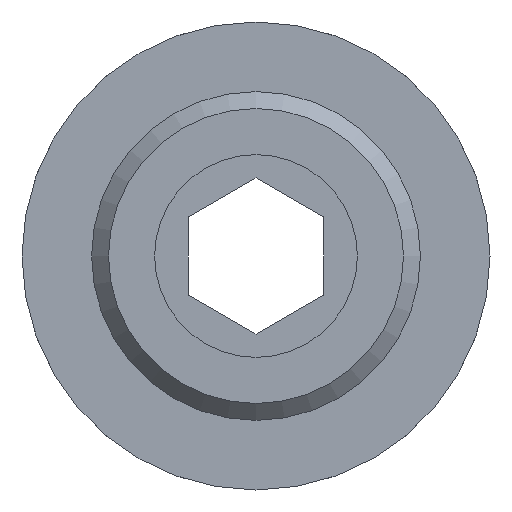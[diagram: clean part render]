
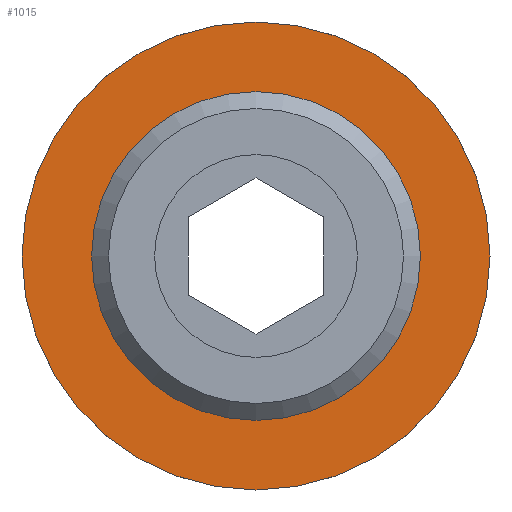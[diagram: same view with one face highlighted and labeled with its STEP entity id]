
A CAD part, front view. The second image highlights one B-rep face of the part: STEP entity #1015.
In plain terms, the highlighted planar face has unit normal (0, -1, 0).
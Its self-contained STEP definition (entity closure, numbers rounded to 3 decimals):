
#377=CARTESIAN_POINT('',(4.865,-16.2,0.0));
#378=VERTEX_POINT('',#377);
#379=CARTESIAN_POINT('',(0.0,-16.2,0.0));
#380=DIRECTION('',(0.0,-1.0,0.0));
#381=DIRECTION('',(1.0,0.0,0.0));
#382=AXIS2_PLACEMENT_3D('',#379,#380,#381);
#383=CIRCLE('',#382,4.865);
#384=EDGE_CURVE('',#378,#378,#383,.T.);
#877=CARTESIAN_POINT('',(6.925,-16.2,0.0));
#878=VERTEX_POINT('',#877);
#879=CARTESIAN_POINT('',(0.0,-16.2,0.0));
#880=DIRECTION('',(0.0,-1.0,0.0));
#881=DIRECTION('',(1.0,0.0,0.0));
#882=AXIS2_PLACEMENT_3D('',#879,#880,#881);
#883=CIRCLE('',#882,6.925);
#884=EDGE_CURVE('',#878,#878,#883,.T.);
#1004=CARTESIAN_POINT('',(5.895,-16.2,0.0));
#1005=DIRECTION('',(0.0,-1.0,0.0));
#1006=DIRECTION('',(0.0,0.0,-1.0));
#1007=AXIS2_PLACEMENT_3D('',#1004,#1005,#1006);
#1008=PLANE('',#1007);
#1009=ORIENTED_EDGE('',*,*,#884,.T.);
#1010=EDGE_LOOP('',(#1009));
#1011=FACE_OUTER_BOUND('',#1010,.T.);
#1012=ORIENTED_EDGE('',*,*,#384,.F.);
#1013=EDGE_LOOP('',(#1012));
#1014=FACE_BOUND('',#1013,.T.);
#1015=ADVANCED_FACE('',(#1011,#1014),#1008,.T.);
